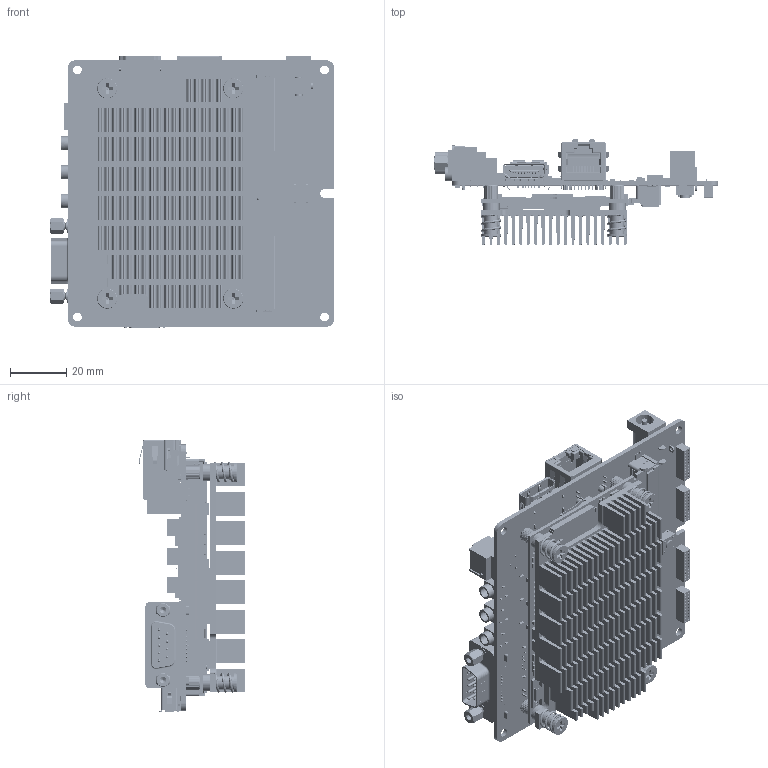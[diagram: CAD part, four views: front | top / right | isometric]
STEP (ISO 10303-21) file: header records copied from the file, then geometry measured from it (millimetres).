
FILE_DESCRIPTION((''),'2;1');
FILE_NAME('WB-IMX6DL-9377_ASM','2021-03-04T',('gary'),(''),'CREO PARAMETRIC BY PTC INC, 2014350','CREO PARAMETRIC BY PTC INC, 2014350','');
FILE_SCHEMA(('AUTOMOTIVE_DESIGN { 1 0 10303 214 1 1 1 1 }'));
Products named in the file (116): TN49_PCB; DTS-61N_V; FEMALE_HEADER_180_DIP; DC_JACK_KD-014-L; KRJ-14462-108XX; PJD_035_43A01; SHHORTPIN_4N_7; SHHORTPIN_4N_6; SHHORTPIN_4N_5; SHHORTPIN_4N_4; SHHORTPIN_4N_3; SHHORTPIN_4N_2; SHHORTPIN_4N_1; SHHORTPIN_4N; SHHORTPIN_4N_8; SHORT_4N_ASM; SHELL_4N; LONGPIN_4N; LONGPIN_4N_1; LONGPIN_4N_2; LONGPIN_4N_3; LONGPIN_4N_4; LONGPIN_4N_5; LONGPIN_4N_6; LONGPIN_4N_7; LONGPIN_4N_8; LONGPIN_4N_9; LONG_4N_ASM; HOUSING_4N; 51U-321N_ASM_1_ASM; MSBR-14; MSBR-13; MSBR-12; MSBR-11; MSBR-10; MSBR-9; MSBR-8; MSBR-7; MSBR-6; MSBR-5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
Assembly tree (908 placements, depth 5):
  WB-IMX6DL-9377_ASM
    TN49_WAND_ASM
      TN49_PCB
      DTS-61N_V
      FEMALE_HEADER_180_DIP  x4
      DC_JACK_KD-014-L
      KRJ-14462-108XX
      PJD_035_43A01  x3
      51U-321N_ASM_1_ASM
        SHORT_4N_ASM
          SHHORTPIN_4N_7
          SHHORTPIN_4N_6
          SHHORTPIN_4N_5
          SHHORTPIN_4N_4
          SHHORTPIN_4N_3
          SHHORTPIN_4N_2
          SHHORTPIN_4N_1
          SHHORTPIN_4N
          SHHORTPIN_4N_8
        SHELL_4N
        LONG_4N_ASM
          LONGPIN_4N
          LONGPIN_4N_1
          LONGPIN_4N_2
          LONGPIN_4N_3
          LONGPIN_4N_4
          LONGPIN_4N_5
          LONGPIN_4N_6
          LONGPIN_4N_7
          LONGPIN_4N_8
          LONGPIN_4N_9
        HOUSING_4N
      MWCSD03S012R_ASM
        MSBR-14
        MSBR-13
        MSBR-12
        MSBR-11
        MSBR-10
        MSBR-9
        MSBR-8
        MSBR-7
        MSBR-6
        MSBR-5
        MSBR-4
        MSBR-3
        MSBR-2
        MSBR-1
      ASOB82X-XH_317-0000-S78B-X-1_
      NUT_M3_1  x4
      SATA_CONNECTOR_1
      SPDIF_1
      SATA_POWER_2X2P
      SD9P_CONNECTON_ASM
        SD9P_WITH_CLINCH_NUTS_ANY_4
        3AA05-004__200_HEX_HEIGHT_ANY_1  x2
      MIN_USB_MBD10
      USB30
      TN49_0304_ASM
        DL-41_AC
        TP20T  x4
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Bounding box: 101.41 x 37.79 x 96.9 mm (x, y, z)
Volume: 63008.1 mm3; surface area: 106168.8 mm2
Topology: 902 solids, 902 shells, 16895 faces, 43467 edges, 28473 vertices
Faces by surface type: plane 13762, cylinder 2622, cone 187, bspline 156, torus 107, extrusion 31, sphere 26, revolution 4
Entity records: 470808 total; most frequent: CARTESIAN_POINT 76084, ORIENTED_EDGE 59306, DIRECTION 58354, EDGE_CURVE 29653, PRESENTATION_STYLE_ASSIGNMENT 28869, STYLED_ITEM 28863, CURVE_STYLE 28797, VECTOR 23738
